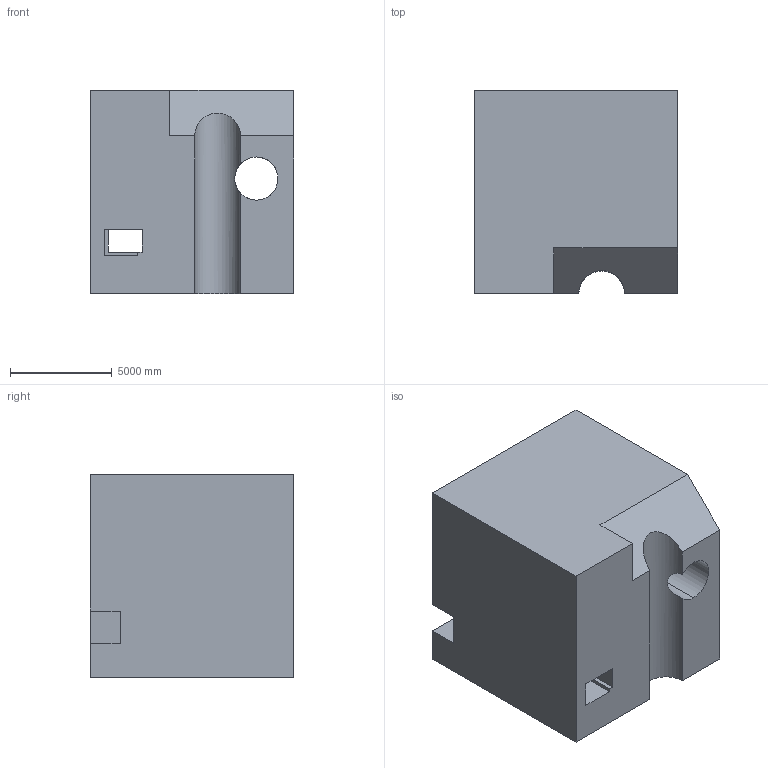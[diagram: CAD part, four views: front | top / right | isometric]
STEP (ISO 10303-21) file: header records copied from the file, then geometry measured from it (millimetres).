
FILE_DESCRIPTION (( 'STEP AP203' ), '1' );
FILE_NAME ('1750.STEP', '2022-08-25T15:36:52', ( 'user' ), ( '' ), 'SwSTEP 2.0', 'SolidWorks 2021', '' );
FILE_SCHEMA (( 'CONFIG_CONTROL_DESIGN' ));
Length unit declared in the file: centimetre
Products named in the file (1): 1750
Bounding box: 10000 x 10000 x 10000 mm (x, y, z)
Volume: 888551400162.3 mm3; surface area: 719869132.3 mm2
Topology: 1 solids, 1 shells, 31 faces, 93 edges, 62 vertices
Faces by surface type: plane 25, cylinder 6
Entity records: 1381 total; most frequent: CARTESIAN_POINT 454, ORIENTED_EDGE 186, DIRECTION 165, EDGE_CURVE 93, LINE 75, VECTOR 75, VERTEX_POINT 62, AXIS2_PLACEMENT_3D 45
